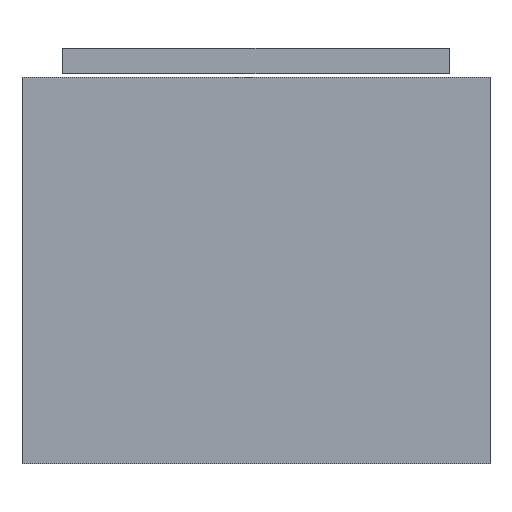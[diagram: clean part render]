
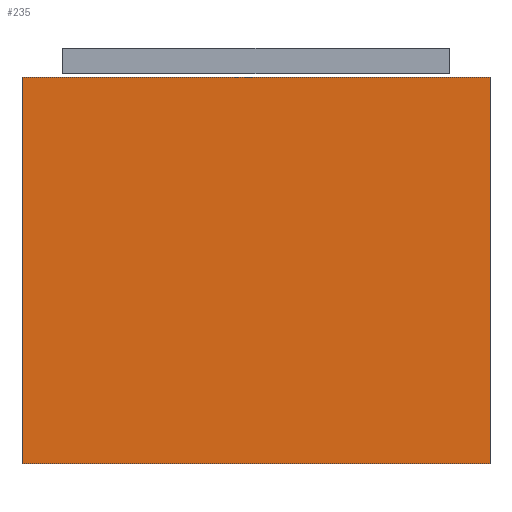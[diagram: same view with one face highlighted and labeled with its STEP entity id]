
A CAD part, top view. The second image highlights one B-rep face of the part: STEP entity #235.
In plain terms, the highlighted planar face has unit normal (0, 0, 1).
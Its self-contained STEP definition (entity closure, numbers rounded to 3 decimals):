
#46 = VERTEX_POINT('',#47);
#47 = CARTESIAN_POINT('',(-4.545,-3.725,3.36));
#54 = PLANE('',#55);
#55 = AXIS2_PLACEMENT_3D('',#56,#57,#58);
#56 = CARTESIAN_POINT('',(-4.545,-3.725,0.));
#57 = DIRECTION('',(1.,0.,0.));
#58 = DIRECTION('',(0.,0.,1.));
#66 = PLANE('',#67);
#67 = AXIS2_PLACEMENT_3D('',#68,#69,#70);
#68 = CARTESIAN_POINT('',(-4.545,-3.725,0.));
#69 = DIRECTION('',(0.,1.,0.));
#70 = DIRECTION('',(0.,0.,1.));
#107 = VERTEX_POINT('',#108);
#108 = CARTESIAN_POINT('',(-4.545,3.775,3.36));
#122 = PLANE('',#123);
#123 = AXIS2_PLACEMENT_3D('',#124,#125,#126);
#124 = CARTESIAN_POINT('',(-4.545,3.775,0.));
#125 = DIRECTION('',(0.,1.,0.));
#126 = DIRECTION('',(0.,0.,1.));
#134 = EDGE_CURVE('',#46,#107,#135,.T.);
#135 = SURFACE_CURVE('',#136,(#140,#147),.PCURVE_S1.);
#136 = LINE('',#137,#138);
#137 = CARTESIAN_POINT('',(-4.545,-3.725,3.36));
#138 = VECTOR('',#139,1.);
#139 = DIRECTION('',(0.,1.,0.));
#140 = PCURVE('',#54,#141);
#141 = DEFINITIONAL_REPRESENTATION('',(#142),#146);
#142 = LINE('',#143,#144);
#143 = CARTESIAN_POINT('',(3.36,0.));
#144 = VECTOR('',#145,1.);
#145 = DIRECTION('',(0.,-1.));
#146 = ( GEOMETRIC_REPRESENTATION_CONTEXT(2) 
PARAMETRIC_REPRESENTATION_CONTEXT() REPRESENTATION_CONTEXT('2D SPACE',''
  ) );
#147 = PCURVE('',#148,#153);
#148 = PLANE('',#149);
#149 = AXIS2_PLACEMENT_3D('',#150,#151,#152);
#150 = CARTESIAN_POINT('',(-4.545,-3.725,3.36));
#151 = DIRECTION('',(0.,0.,1.));
#152 = DIRECTION('',(1.,0.,0.));
#153 = DEFINITIONAL_REPRESENTATION('',(#154),#158);
#154 = LINE('',#155,#156);
#155 = CARTESIAN_POINT('',(0.,0.));
#156 = VECTOR('',#157,1.);
#157 = DIRECTION('',(0.,1.));
#158 = ( GEOMETRIC_REPRESENTATION_CONTEXT(2) 
PARAMETRIC_REPRESENTATION_CONTEXT() REPRESENTATION_CONTEXT('2D SPACE',''
  ) );
#187 = EDGE_CURVE('',#46,#188,#190,.T.);
#188 = VERTEX_POINT('',#189);
#189 = CARTESIAN_POINT('',(4.545,-3.725,3.36));
#190 = SURFACE_CURVE('',#191,(#195,#202),.PCURVE_S1.);
#191 = LINE('',#192,#193);
#192 = CARTESIAN_POINT('',(-4.545,-3.725,3.36));
#193 = VECTOR('',#194,1.);
#194 = DIRECTION('',(1.,0.,0.));
#195 = PCURVE('',#66,#196);
#196 = DEFINITIONAL_REPRESENTATION('',(#197),#201);
#197 = LINE('',#198,#199);
#198 = CARTESIAN_POINT('',(3.36,0.));
#199 = VECTOR('',#200,1.);
#200 = DIRECTION('',(0.,1.));
#201 = ( GEOMETRIC_REPRESENTATION_CONTEXT(2) 
PARAMETRIC_REPRESENTATION_CONTEXT() REPRESENTATION_CONTEXT('2D SPACE',''
  ) );
#202 = PCURVE('',#148,#203);
#203 = DEFINITIONAL_REPRESENTATION('',(#204),#208);
#204 = LINE('',#205,#206);
#205 = CARTESIAN_POINT('',(0.,0.));
#206 = VECTOR('',#207,1.);
#207 = DIRECTION('',(1.,0.));
#208 = ( GEOMETRIC_REPRESENTATION_CONTEXT(2) 
PARAMETRIC_REPRESENTATION_CONTEXT() REPRESENTATION_CONTEXT('2D SPACE',''
  ) );
#224 = PLANE('',#225);
#225 = AXIS2_PLACEMENT_3D('',#226,#227,#228);
#226 = CARTESIAN_POINT('',(4.545,-3.725,0.));
#227 = DIRECTION('',(1.,0.,0.));
#228 = DIRECTION('',(0.,0.,1.));
#235 = ADVANCED_FACE('',(#236),#148,.T.);
#236 = FACE_BOUND('',#237,.T.);
#237 = EDGE_LOOP('',(#238,#239,#240,#263));
#238 = ORIENTED_EDGE('',*,*,#134,.F.);
#239 = ORIENTED_EDGE('',*,*,#187,.T.);
#240 = ORIENTED_EDGE('',*,*,#241,.T.);
#241 = EDGE_CURVE('',#188,#242,#244,.T.);
#242 = VERTEX_POINT('',#243);
#243 = CARTESIAN_POINT('',(4.545,3.775,3.36));
#244 = SURFACE_CURVE('',#245,(#249,#256),.PCURVE_S1.);
#245 = LINE('',#246,#247);
#246 = CARTESIAN_POINT('',(4.545,-3.725,3.36));
#247 = VECTOR('',#248,1.);
#248 = DIRECTION('',(0.,1.,0.));
#249 = PCURVE('',#148,#250);
#250 = DEFINITIONAL_REPRESENTATION('',(#251),#255);
#251 = LINE('',#252,#253);
#252 = CARTESIAN_POINT('',(9.09,0.));
#253 = VECTOR('',#254,1.);
#254 = DIRECTION('',(0.,1.));
#255 = ( GEOMETRIC_REPRESENTATION_CONTEXT(2) 
PARAMETRIC_REPRESENTATION_CONTEXT() REPRESENTATION_CONTEXT('2D SPACE',''
  ) );
#256 = PCURVE('',#224,#257);
#257 = DEFINITIONAL_REPRESENTATION('',(#258),#262);
#258 = LINE('',#259,#260);
#259 = CARTESIAN_POINT('',(3.36,0.));
#260 = VECTOR('',#261,1.);
#261 = DIRECTION('',(0.,-1.));
#262 = ( GEOMETRIC_REPRESENTATION_CONTEXT(2) 
PARAMETRIC_REPRESENTATION_CONTEXT() REPRESENTATION_CONTEXT('2D SPACE',''
  ) );
#263 = ORIENTED_EDGE('',*,*,#264,.F.);
#264 = EDGE_CURVE('',#107,#242,#265,.T.);
#265 = SURFACE_CURVE('',#266,(#270,#277),.PCURVE_S1.);
#266 = LINE('',#267,#268);
#267 = CARTESIAN_POINT('',(-4.545,3.775,3.36));
#268 = VECTOR('',#269,1.);
#269 = DIRECTION('',(1.,0.,0.));
#270 = PCURVE('',#148,#271);
#271 = DEFINITIONAL_REPRESENTATION('',(#272),#276);
#272 = LINE('',#273,#274);
#273 = CARTESIAN_POINT('',(0.,7.5));
#274 = VECTOR('',#275,1.);
#275 = DIRECTION('',(1.,0.));
#276 = ( GEOMETRIC_REPRESENTATION_CONTEXT(2) 
PARAMETRIC_REPRESENTATION_CONTEXT() REPRESENTATION_CONTEXT('2D SPACE',''
  ) );
#277 = PCURVE('',#122,#278);
#278 = DEFINITIONAL_REPRESENTATION('',(#279),#283);
#279 = LINE('',#280,#281);
#280 = CARTESIAN_POINT('',(3.36,0.));
#281 = VECTOR('',#282,1.);
#282 = DIRECTION('',(0.,1.));
#283 = ( GEOMETRIC_REPRESENTATION_CONTEXT(2) 
PARAMETRIC_REPRESENTATION_CONTEXT() REPRESENTATION_CONTEXT('2D SPACE',''
  ) );
